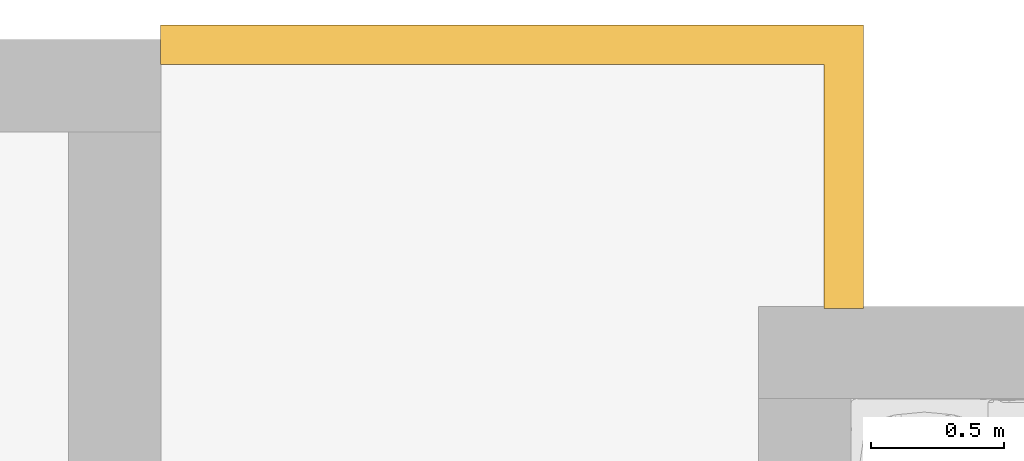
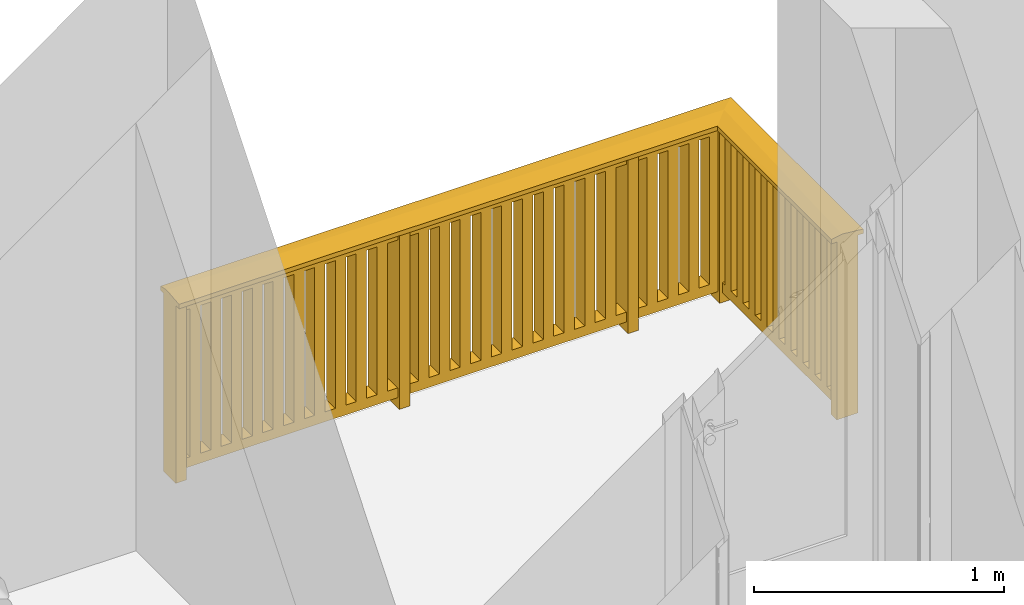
# One storey, part 32 of 44: 1 railing.
"""IFC2X3 building model written with IfcOpenShell, lengths in millimetres."""

from ifc_helpers import new_model, entity, si_unit, converted_unit, direction, frame, origin, place, context, subcontext, project, spatial, faceted_brep, material, type_object, element, save


model = new_model("IFC2X3")

# Units and contexts
model_context = context("Model", 3, precision=0.01, world=origin(), true_north=direction((0.0, 1.0)))
body_context = subcontext(model_context, "Body", "Model", "MODEL_VIEW")
ifc_project = project(units=[si_unit("LENGTHUNIT", "METRE", prefix="MILLI"), si_unit("AREAUNIT", "SQUARE_METRE"), si_unit("VOLUMEUNIT", "CUBIC_METRE"), converted_unit("PLANEANGLEUNIT", "DEGREE", entity("IfcPlaneAngleMeasure", 0.017453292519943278), si_unit("PLANEANGLEUNIT", "RADIAN"), dimensions=[0, 0, 0, 0, 0, 0, 0])], contexts=[model_context])

# Site, building, storey
site_placement = place(None, origin())
site = spatial("IfcSite", under=ifc_project, at=site_placement, Name="Default", CompositionType="ELEMENT")
building_placement = place(site_placement, origin())
building = spatial("IfcBuilding", under=site, at=building_placement, CompositionType="ELEMENT")
storey_placement = place(building_placement, frame((0.0, 0.0, 2681.0)))
storey = spatial("IfcBuildingStorey", under=building, at=storey_placement, Name="Et. 2", CompositionType="ELEMENT", Elevation=2681.0)

# Railing
ifc_material = material(Name="Rekkverk - Tre")
railing_type = type_object("IfcRailingType", Name="Railing:Balkong - Spiler Stående 900mm", PredefinedType="NOTDEFINED")
railing_placement = place(storey_placement, frame((13764.009586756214, 18075.180957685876, 40.0)))
element("IfcRailing", 1, at=railing_placement, inside=storey, type_object=railing_type, material=ifc_material, Name="Railing:Balkong - Spiler Stående 900mm", PredefinedType="NOTDEFINED", context=body_context, shape_type="Brep", body=[
    faceted_brep([(2523.4999999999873, 51.0, 820.0), (2596.4999999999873, 51.0, 820.0), (2596.4999999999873, 51.0, 98.0), (2523.4999999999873, 51.0, 98.0), (2596.4999999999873, 3.0, 820.0), (2596.4999999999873, 3.0, 98.0), (2523.4999999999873, 3.0, 820.0), (2523.4999999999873, 3.0, 98.0)], [[[0, 1, 2, 3]], [[1, 4, 5, 2]], [[4, 6, 7, 5]], [[3, 7, 6, 0]], [[0, 6, 4, 1]], [[2, 5, 7, 3]]]),
    faceted_brep([(2523.4999999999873, 147.0, 820.0), (2596.4999999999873, 147.0, 820.0), (2596.4999999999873, 147.0, 98.0), (2523.4999999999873, 147.0, 98.0), (2596.4999999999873, 99.0, 820.0), (2596.4999999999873, 99.0, 98.0), (2523.4999999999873, 99.0, 820.0), (2523.4999999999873, 99.0, 98.0)], [[[0, 1, 2, 3]], [[1, 4, 5, 2]], [[4, 6, 7, 5]], [[3, 7, 6, 0]], [[0, 6, 4, 1]], [[2, 5, 7, 3]]]),
    faceted_brep([(2523.4999999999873, 243.0, 820.0), (2596.4999999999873, 243.0, 820.0), (2596.4999999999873, 243.0, 98.0), (2523.4999999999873, 243.0, 98.0), (2596.4999999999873, 195.0, 820.0), (2596.4999999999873, 195.0, 98.0), (2523.4999999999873, 195.0, 820.0), (2523.4999999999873, 195.0, 98.0)], [[[0, 1, 2, 3]], [[1, 4, 5, 2]], [[4, 6, 7, 5]], [[3, 7, 6, 0]], [[0, 6, 4, 1]], [[2, 5, 7, 3]]]),
    faceted_brep([(2523.4999999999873, 339.0, 820.0), (2596.4999999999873, 339.0, 820.0), (2596.4999999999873, 339.0, 98.0), (2523.4999999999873, 339.0, 98.0), (2596.4999999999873, 291.0, 820.0), (2596.4999999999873, 291.0, 98.0), (2523.4999999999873, 291.0, 820.0), (2523.4999999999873, 291.0, 98.0)], [[[0, 1, 2, 3]], [[1, 4, 5, 2]], [[4, 6, 7, 5]], [[3, 7, 6, 0]], [[0, 6, 4, 1]], [[2, 5, 7, 3]]]),
    faceted_brep([(2523.4999999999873, 435.0, 820.0), (2596.4999999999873, 435.0, 820.0), (2596.4999999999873, 435.0, 98.0), (2523.4999999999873, 435.0, 98.0), (2596.4999999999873, 387.0, 820.0), (2596.4999999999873, 387.0, 98.0), (2523.4999999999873, 387.0, 820.0), (2523.4999999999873, 387.0, 98.0)], [[[0, 1, 2, 3]], [[1, 4, 5, 2]], [[4, 6, 7, 5]], [[3, 7, 6, 0]], [[0, 6, 4, 1]], [[2, 5, 7, 3]]]),
    faceted_brep([(2523.4999999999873, 531.0, 820.0), (2596.4999999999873, 531.0, 820.0), (2596.4999999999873, 531.0, 98.0), (2523.4999999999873, 531.0, 98.0), (2596.4999999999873, 483.0, 820.0), (2596.4999999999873, 483.0, 98.0), (2523.4999999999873, 483.0, 820.0), (2523.4999999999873, 483.0, 98.0)], [[[0, 1, 2, 3]], [[1, 4, 5, 2]], [[4, 6, 7, 5]], [[3, 7, 6, 0]], [[0, 6, 4, 1]], [[2, 5, 7, 3]]]),
    faceted_brep([(2523.4999999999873, 627.0, 820.0), (2596.4999999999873, 627.0, 820.0), (2596.4999999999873, 627.0, 98.0), (2523.4999999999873, 627.0, 98.0), (2596.4999999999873, 579.0, 820.0), (2596.4999999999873, 579.0, 98.0), (2523.4999999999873, 579.0, 820.0), (2523.4999999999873, 579.0, 98.0)], [[[0, 1, 2, 3]], [[1, 4, 5, 2]], [[4, 6, 7, 5]], [[3, 7, 6, 0]], [[0, 6, 4, 1]], [[2, 5, 7, 3]]]),
    faceted_brep([(2523.4999999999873, 723.0, 820.0), (2596.4999999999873, 723.0, 820.0), (2596.4999999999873, 723.0, 98.0), (2523.4999999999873, 723.0, 98.0), (2596.4999999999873, 675.0, 820.0), (2596.4999999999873, 675.0, 98.0), (2523.4999999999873, 675.0, 820.0), (2523.4999999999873, 675.0, 98.0)], [[[0, 1, 2, 3]], [[1, 4, 5, 2]], [[4, 6, 7, 5]], [[3, 7, 6, 0]], [[0, 6, 4, 1]], [[2, 5, 7, 3]]]),
    faceted_brep([(2523.4999999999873, 819.0, 820.0), (2596.4999999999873, 819.0, 820.0), (2596.4999999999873, 819.0, 98.0), (2523.4999999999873, 819.0, 98.0), (2596.4999999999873, 771.0, 820.0), (2596.4999999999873, 771.0, 98.0), (2523.4999999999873, 771.0, 820.0), (2523.4999999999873, 771.0, 98.0)], [[[0, 1, 2, 3]], [[1, 4, 5, 2]], [[4, 6, 7, 5]], [[3, 7, 6, 0]], [[0, 6, 4, 1]], [[2, 5, 7, 3]]]),
    faceted_brep([(2523.4999999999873, 915.0, 820.0), (2596.4999999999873, 915.0, 820.0), (2596.4999999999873, 915.0, 98.0), (2523.4999999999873, 915.0, 98.0), (2596.4999999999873, 867.0, 820.0), (2596.4999999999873, 867.0, 98.0), (2523.4999999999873, 867.0, 820.0), (2523.4999999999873, 867.0, 98.0)], [[[0, 1, 2, 3]], [[1, 4, 5, 2]], [[4, 6, 7, 5]], [[3, 7, 6, 0]], [[0, 6, 4, 1]], [[2, 5, 7, 3]]]),
    faceted_brep([(2472.0, 950.4999999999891, 820.0), (2472.0, 1023.4999999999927, 820.0), (2472.0, 1023.4999999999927, 98.0), (2472.0, 950.4999999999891, 98.0), (2520.0, 1023.4999999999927, 820.0), (2520.0, 1023.4999999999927, 98.0), (2520.0, 950.4999999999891, 820.0), (2520.0, 950.4999999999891, 98.0)], [[[0, 1, 2, 3]], [[1, 4, 5, 2]], [[4, 6, 7, 5]], [[3, 7, 6, 0]], [[0, 6, 4, 1]], [[2, 5, 7, 3]]]),
    faceted_brep([(2376.0, 950.4999999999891, 820.0), (2376.0, 1023.4999999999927, 820.0), (2376.0, 1023.4999999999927, 98.0), (2376.0, 950.4999999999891, 98.0), (2424.0, 1023.4999999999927, 820.0), (2424.0, 1023.4999999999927, 98.0), (2424.0, 950.4999999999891, 820.0), (2424.0, 950.4999999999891, 98.0)], [[[0, 1, 2, 3]], [[1, 4, 5, 2]], [[4, 6, 7, 5]], [[3, 7, 6, 0]], [[0, 6, 4, 1]], [[2, 5, 7, 3]]]),
    faceted_brep([(2280.0, 950.4999999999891, 820.0), (2280.0, 1023.4999999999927, 820.0), (2280.0, 1023.4999999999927, 98.0), (2280.0, 950.4999999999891, 98.0), (2328.0, 1023.4999999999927, 820.0), (2328.0, 1023.4999999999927, 98.0), (2328.0, 950.4999999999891, 820.0), (2328.0, 950.4999999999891, 98.0)], [[[0, 1, 2, 3]], [[1, 4, 5, 2]], [[4, 6, 7, 5]], [[3, 7, 6, 0]], [[0, 6, 4, 1]], [[2, 5, 7, 3]]]),
    faceted_brep([(2184.0, 950.4999999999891, 820.0), (2184.0, 1023.4999999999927, 820.0), (2184.0, 1023.4999999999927, 98.0), (2184.0, 950.4999999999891, 98.0), (2232.0, 1023.4999999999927, 820.0), (2232.0, 1023.4999999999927, 98.0), (2232.0, 950.4999999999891, 820.0), (2232.0, 950.4999999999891, 98.0)], [[[0, 1, 2, 3]], [[1, 4, 5, 2]], [[4, 6, 7, 5]], [[3, 7, 6, 0]], [[0, 6, 4, 1]], [[2, 5, 7, 3]]]),
    faceted_brep([(2088.0, 938.0, 868.0), (2088.0, 1036.0, 868.0), (2088.0, 1036.0, 0.0), (2088.0, 938.0, 0.0), (2136.0, 1036.0, 868.0), (2136.0, 1036.0, 0.0), (2136.0, 938.0, 868.0), (2136.0, 938.0, 0.0)], [[[0, 1, 2, 3]], [[1, 4, 5, 2]], [[4, 6, 7, 5]], [[3, 7, 6, 0]], [[0, 6, 4, 1]], [[2, 5, 7, 3]]]),
    faceted_brep([(1992.0, 950.4999999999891, 820.0), (1992.0, 1023.4999999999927, 820.0), (1992.0, 1023.4999999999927, 98.0), (1992.0, 950.4999999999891, 98.0), (2040.0, 1023.4999999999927, 820.0), (2040.0, 1023.4999999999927, 98.0), (2040.0, 950.4999999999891, 820.0), (2040.0, 950.4999999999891, 98.0)], [[[0, 1, 2, 3]], [[1, 4, 5, 2]], [[4, 6, 7, 5]], [[3, 7, 6, 0]], [[0, 6, 4, 1]], [[2, 5, 7, 3]]]),
    faceted_brep([(1896.0, 950.4999999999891, 820.0), (1896.0, 1023.4999999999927, 820.0), (1896.0, 1023.4999999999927, 98.0), (1896.0, 950.4999999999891, 98.0), (1944.0, 1023.4999999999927, 820.0), (1944.0, 1023.4999999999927, 98.0), (1944.0, 950.4999999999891, 820.0), (1944.0, 950.4999999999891, 98.0)], [[[0, 1, 2, 3]], [[1, 4, 5, 2]], [[4, 6, 7, 5]], [[3, 7, 6, 0]], [[0, 6, 4, 1]], [[2, 5, 7, 3]]]),
    faceted_brep([(1800.0, 950.4999999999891, 820.0), (1800.0, 1023.4999999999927, 820.0), (1800.0, 1023.4999999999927, 98.0), (1800.0, 950.4999999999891, 98.0), (1848.0, 1023.4999999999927, 820.0), (1848.0, 1023.4999999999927, 98.0), (1848.0, 950.4999999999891, 820.0), (1848.0, 950.4999999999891, 98.0)], [[[0, 1, 2, 3]], [[1, 4, 5, 2]], [[4, 6, 7, 5]], [[3, 7, 6, 0]], [[0, 6, 4, 1]], [[2, 5, 7, 3]]]),
    faceted_brep([(1704.0, 950.4999999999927, 820.0), (1704.0, 1023.4999999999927, 820.0), (1704.0, 1023.4999999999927, 98.0), (1704.0, 950.4999999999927, 98.0), (1752.0, 1023.4999999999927, 820.0), (1752.0, 1023.4999999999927, 98.0), (1752.0, 950.4999999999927, 820.0), (1752.0, 950.4999999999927, 98.0)], [[[0, 1, 2, 3]], [[1, 4, 5, 2]], [[4, 6, 7, 5]], [[3, 7, 6, 0]], [[0, 6, 4, 1]], [[2, 5, 7, 3]]]),
    faceted_brep([(1608.0, 950.4999999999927, 820.0), (1608.0, 1023.4999999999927, 820.0), (1608.0, 1023.4999999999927, 98.0), (1608.0, 950.4999999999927, 98.0), (1656.0, 1023.4999999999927, 820.0), (1656.0, 1023.4999999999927, 98.0), (1656.0, 950.4999999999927, 820.0), (1656.0, 950.4999999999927, 98.0)], [[[0, 1, 2, 3]], [[1, 4, 5, 2]], [[4, 6, 7, 5]], [[3, 7, 6, 0]], [[0, 6, 4, 1]], [[2, 5, 7, 3]]]),
    faceted_brep([(1512.0, 950.4999999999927, 820.0), (1512.0, 1023.4999999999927, 820.0), (1512.0, 1023.4999999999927, 98.0), (1512.0, 950.4999999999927, 98.0), (1560.0, 1023.4999999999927, 820.0), (1560.0, 1023.4999999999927, 98.0), (1560.0, 950.4999999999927, 820.0), (1560.0, 950.4999999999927, 98.0)], [[[0, 1, 2, 3]], [[1, 4, 5, 2]], [[4, 6, 7, 5]], [[3, 7, 6, 0]], [[0, 6, 4, 1]], [[2, 5, 7, 3]]]),
    faceted_brep([(1416.0, 950.4999999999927, 820.0), (1416.0, 1023.4999999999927, 820.0), (1416.0, 1023.4999999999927, 98.0), (1416.0, 950.4999999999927, 98.0), (1464.0, 1023.4999999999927, 820.0), (1464.0, 1023.4999999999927, 98.0), (1464.0, 950.4999999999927, 820.0), (1464.0, 950.4999999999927, 98.0)], [[[0, 1, 2, 3]], [[1, 4, 5, 2]], [[4, 6, 7, 5]], [[3, 7, 6, 0]], [[0, 6, 4, 1]], [[2, 5, 7, 3]]]),
    faceted_brep([(1320.0, 950.4999999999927, 820.0), (1320.0, 1023.4999999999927, 820.0), (1320.0, 1023.4999999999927, 98.0), (1320.0, 950.4999999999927, 98.0), (1368.0, 1023.4999999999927, 820.0), (1368.0, 1023.4999999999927, 98.0), (1368.0, 950.4999999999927, 820.0), (1368.0, 950.4999999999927, 98.0)], [[[0, 1, 2, 3]], [[1, 4, 5, 2]], [[4, 6, 7, 5]], [[3, 7, 6, 0]], [[0, 6, 4, 1]], [[2, 5, 7, 3]]]),
    faceted_brep([(1224.0, 950.4999999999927, 820.0), (1224.0, 1023.4999999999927, 820.0), (1224.0, 1023.4999999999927, 98.0), (1224.0, 950.4999999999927, 98.0), (1272.0, 1023.4999999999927, 820.0), (1272.0, 1023.4999999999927, 98.0), (1272.0, 950.4999999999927, 820.0), (1272.0, 950.4999999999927, 98.0)], [[[0, 1, 2, 3]], [[1, 4, 5, 2]], [[4, 6, 7, 5]], [[3, 7, 6, 0]], [[0, 6, 4, 1]], [[2, 5, 7, 3]]]),
    faceted_brep([(1128.0, 950.4999999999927, 820.0), (1128.0, 1023.4999999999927, 820.0), (1128.0, 1023.4999999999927, 98.0), (1128.0, 950.4999999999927, 98.0), (1176.0, 1023.4999999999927, 820.0), (1176.0, 1023.4999999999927, 98.0), (1176.0, 950.4999999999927, 820.0), (1176.0, 950.4999999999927, 98.0)], [[[0, 1, 2, 3]], [[1, 4, 5, 2]], [[4, 6, 7, 5]], [[3, 7, 6, 0]], [[0, 6, 4, 1]], [[2, 5, 7, 3]]]),
    faceted_brep([(1032.0, 938.0, 868.0), (1032.0, 1036.0, 868.0), (1032.0, 1036.0, 0.0), (1032.0, 938.0, 0.0), (1080.0, 1036.0, 868.0), (1080.0, 1036.0, 0.0), (1080.0, 938.0, 868.0), (1080.0, 938.0, 0.0)], [[[0, 1, 2, 3]], [[1, 4, 5, 2]], [[4, 6, 7, 5]], [[3, 7, 6, 0]], [[0, 6, 4, 1]], [[2, 5, 7, 3]]]),
    faceted_brep([(936.0, 950.4999999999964, 820.0), (936.0, 1023.4999999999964, 820.0), (936.0, 1023.4999999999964, 98.0), (936.0, 950.4999999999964, 98.0), (984.0, 1023.4999999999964, 820.0), (984.0, 1023.4999999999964, 98.0), (984.0, 950.4999999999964, 820.0), (984.0, 950.4999999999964, 98.0)], [[[0, 1, 2, 3]], [[1, 4, 5, 2]], [[4, 6, 7, 5]], [[3, 7, 6, 0]], [[0, 6, 4, 1]], [[2, 5, 7, 3]]]),
    faceted_brep([(840.0, 950.4999999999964, 820.0), (840.0, 1023.4999999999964, 820.0), (840.0, 1023.4999999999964, 98.0), (840.0, 950.4999999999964, 98.0), (888.0, 1023.4999999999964, 820.0), (888.0, 1023.4999999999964, 98.0), (888.0, 950.4999999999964, 820.0), (888.0, 950.4999999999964, 98.0)], [[[0, 1, 2, 3]], [[1, 4, 5, 2]], [[4, 6, 7, 5]], [[3, 7, 6, 0]], [[0, 6, 4, 1]], [[2, 5, 7, 3]]]),
    faceted_brep([(744.0, 950.4999999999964, 820.0), (744.0, 1023.4999999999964, 820.0), (744.0, 1023.4999999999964, 98.0), (744.0, 950.4999999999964, 98.0), (792.0, 1023.4999999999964, 820.0), (792.0, 1023.4999999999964, 98.0), (792.0, 950.4999999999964, 820.0), (792.0, 950.4999999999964, 98.0)], [[[0, 1, 2, 3]], [[1, 4, 5, 2]], [[4, 6, 7, 5]], [[3, 7, 6, 0]], [[0, 6, 4, 1]], [[2, 5, 7, 3]]]),
    faceted_brep([(648.0, 950.4999999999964, 820.0), (648.0, 1023.4999999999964, 820.0), (648.0, 1023.4999999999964, 98.0), (648.0, 950.4999999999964, 98.0), (696.0, 1023.4999999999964, 820.0), (696.0, 1023.4999999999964, 98.0), (696.0, 950.4999999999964, 820.0), (696.0, 950.4999999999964, 98.0)], [[[0, 1, 2, 3]], [[1, 4, 5, 2]], [[4, 6, 7, 5]], [[3, 7, 6, 0]], [[0, 6, 4, 1]], [[2, 5, 7, 3]]]),
    faceted_brep([(552.0, 950.4999999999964, 820.0), (552.0, 1023.4999999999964, 820.0), (552.0, 1023.4999999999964, 98.0), (552.0, 950.4999999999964, 98.0), (600.0, 1023.4999999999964, 820.0), (600.0, 1023.4999999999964, 98.0), (600.0, 950.4999999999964, 820.0), (600.0, 950.4999999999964, 98.0)], [[[0, 1, 2, 3]], [[1, 4, 5, 2]], [[4, 6, 7, 5]], [[3, 7, 6, 0]], [[0, 6, 4, 1]], [[2, 5, 7, 3]]]),
    faceted_brep([(456.0, 950.4999999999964, 820.0), (456.0, 1023.4999999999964, 820.0), (456.0, 1023.4999999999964, 98.0), (456.0, 950.4999999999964, 98.0), (504.0, 1023.4999999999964, 820.0), (504.0, 1023.4999999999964, 98.0), (504.0, 950.4999999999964, 820.0), (504.0, 950.4999999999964, 98.0)], [[[0, 1, 2, 3]], [[1, 4, 5, 2]], [[4, 6, 7, 5]], [[3, 7, 6, 0]], [[0, 6, 4, 1]], [[2, 5, 7, 3]]]),
    faceted_brep([(360.0, 950.4999999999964, 820.0), (360.0, 1023.4999999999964, 820.0), (360.0, 1023.4999999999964, 98.0), (360.0, 950.4999999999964, 98.0), (408.0, 1023.4999999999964, 820.0), (408.0, 1023.4999999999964, 98.0), (408.0, 950.4999999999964, 820.0), (408.0, 950.4999999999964, 98.0)], [[[0, 1, 2, 3]], [[1, 4, 5, 2]], [[4, 6, 7, 5]], [[3, 7, 6, 0]], [[0, 6, 4, 1]], [[2, 5, 7, 3]]]),
    faceted_brep([(264.0, 950.4999999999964, 820.0), (264.0, 1023.4999999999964, 820.0), (264.0, 1023.4999999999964, 98.0), (264.0, 950.4999999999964, 98.0), (312.0, 1023.4999999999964, 820.0), (312.0, 1023.4999999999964, 98.0), (312.0, 950.4999999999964, 820.0), (312.0, 950.4999999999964, 98.0)], [[[0, 1, 2, 3]], [[1, 4, 5, 2]], [[4, 6, 7, 5]], [[3, 7, 6, 0]], [[0, 6, 4, 1]], [[2, 5, 7, 3]]]),
    faceted_brep([(168.0, 950.4999999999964, 820.0), (168.0, 1023.4999999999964, 820.0), (168.0, 1023.4999999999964, 98.0), (168.0, 950.4999999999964, 98.0), (216.0, 1023.4999999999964, 820.0), (216.0, 1023.4999999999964, 98.0), (216.0, 950.4999999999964, 820.0), (216.0, 950.4999999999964, 98.0)], [[[0, 1, 2, 3]], [[1, 4, 5, 2]], [[4, 6, 7, 5]], [[3, 7, 6, 0]], [[0, 6, 4, 1]], [[2, 5, 7, 3]]]),
    faceted_brep([(72.0, 950.4999999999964, 820.0), (72.0, 1023.4999999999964, 820.0), (72.0, 1023.4999999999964, 98.0), (72.0, 950.4999999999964, 98.0), (120.0, 1023.4999999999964, 820.0), (120.0, 1023.4999999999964, 98.0), (120.0, 950.4999999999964, 820.0), (120.0, 950.4999999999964, 98.0)], [[[0, 1, 2, 3]], [[1, 4, 5, 2]], [[4, 6, 7, 5]], [[3, 7, 6, 0]], [[0, 6, 4, 1]], [[2, 5, 7, 3]]]),
    faceted_brep([(2511.0, 938.0, 868.0), (2511.0, 1036.0, 868.0), (2511.0, 1036.0, 0.0), (2511.0, 938.0, 0.0), (2609.0, 1036.0, 868.0), (2609.0, 1036.0, 0.0), (2609.0, 938.0, 868.0), (2609.0, 938.0, 0.0)], [[[0, 1, 2, 3]], [[1, 4, 5, 2]], [[4, 6, 7, 5]], [[3, 7, 6, 0]], [[0, 6, 4, 1]], [[2, 5, 7, 3]]]),
    faceted_brep([(2511.0, 48.0, 868.0), (2609.0, 48.0, 868.0), (2609.0, 48.0, 0.0), (2511.0, 48.0, 0.0), (2609.0, 0.0, 868.0), (2609.0, 0.0, 0.0), (2511.0, 0.0, 868.0), (2511.0, 0.0, 0.0)], [[[0, 1, 2, 3]], [[1, 4, 5, 2]], [[4, 6, 7, 5]], [[3, 7, 6, 0]], [[0, 6, 4, 1]], [[2, 5, 7, 3]]]),
    faceted_brep([(0.0, 938.0, 868.0), (0.0, 1036.0, 868.0), (0.0, 1036.0, 0.0), (0.0, 938.0, 0.0), (48.0, 1036.0, 868.0), (48.0, 1036.0, 0.0), (48.0, 938.0, 868.0), (48.0, 938.0, 0.0)], [[[0, 1, 2, 3]], [[1, 4, 5, 2]], [[4, 6, 7, 5]], [[3, 7, 6, 0]], [[0, 6, 4, 1]], [[2, 5, 7, 3]]]),
    faceted_brep([(0.0, 1023.5000000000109, 868.0), (0.0, 1023.5000000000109, 820.0), (0.0, 950.5000000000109, 820.0), (0.0, 950.5000000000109, 868.0), (2523.5, 950.5, 868.0), (2596.500000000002, 1023.5000000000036, 868.0), (2523.5, 950.5, 820.0), (2596.5, 1023.5000000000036, 820.0), (2596.499999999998, 0.0, 868.0), (2523.499999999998, 0.0, 868.0), (2523.499999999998, 0.0, 820.0), (2596.499999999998, 0.0, 820.0)], [[[0, 1, 2, 3]], [[0, 3, 4, 5]], [[3, 2, 6, 4]], [[2, 1, 7, 6]], [[1, 0, 5, 7]], [[8, 9, 10, 11]], [[5, 4, 9, 8]], [[4, 6, 10, 9]], [[6, 7, 11, 10]], [[7, 5, 8, 11]]]),
    faceted_brep([(0.0, 1023.5000000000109, 98.0), (0.0, 1023.5000000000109, 50.0), (0.0, 950.5000000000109, 50.0), (0.0, 950.5000000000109, 98.0), (2523.5, 950.5, 98.0), (2596.500000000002, 1023.5000000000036, 98.0), (2523.5, 950.5, 50.0), (2596.5, 1023.5000000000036, 50.0), (2596.499999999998, 0.0, 98.0), (2523.499999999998, 0.0, 98.0), (2523.499999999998, 0.0, 50.0), (2596.499999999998, 0.0, 50.0)], [[[0, 1, 2, 3]], [[0, 3, 4, 5]], [[3, 2, 6, 4]], [[2, 1, 7, 6]], [[1, 0, 5, 7]], [[8, 9, 10, 11]], [[5, 4, 9, 8]], [[4, 6, 10, 9]], [[6, 7, 11, 10]], [[7, 5, 8, 11]]]),
    faceted_brep([(0.0, 913.0, 868.0), (0.0, 913.0, 889.3333333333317), (0.0, 962.4844944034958, 894.0704619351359), (0.0, 1011.9689888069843, 898.8075905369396), (0.0, 1061.0, 889.3333333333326), (0.0, 1061.0, 868.0), (2634.0, 1061.0, 868.0), (2634.0, 0.0, 868.0), (2486.0, 0.0, 868.0), (2486.0, 913.0, 868.0), (2486.0, 913.0, 889.3333333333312), (2560.0, 987.0, 900.0), (2634.0, 1061.0, 889.3333333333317), (2535.0310111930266, 0.0, 898.8075905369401), (2486.0, 0.0, 889.333333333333), (2634.0, 0.0, 889.3333333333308), (2584.5155055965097, 0.0, 894.0704619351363)], [[[0, 1, 2, 3, 4, 5]], [[0, 5, 6, 7, 8, 9]], [[1, 0, 9, 10]], [[11, 2, 10]], [[2, 1, 10]], [[3, 12, 4]], [[12, 3, 11]], [[11, 3, 2]], [[5, 4, 12, 6]], [[13, 14, 8, 7, 15, 16]], [[10, 9, 8, 14]], [[10, 14, 13]], [[10, 13, 11]], [[12, 11, 16]], [[16, 15, 12]], [[11, 13, 16]], [[6, 12, 15, 7]]]),
])

save(model, "model.ifc")
